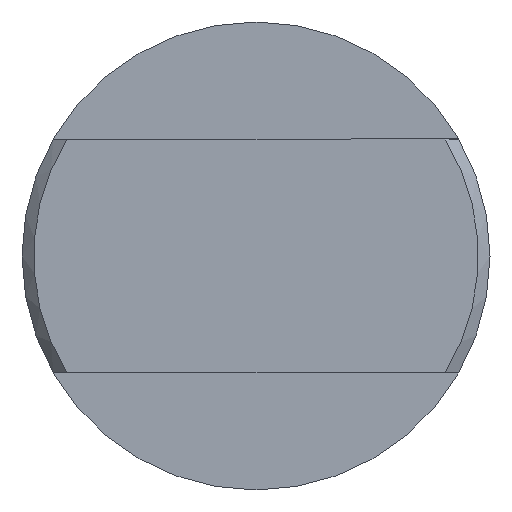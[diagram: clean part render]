
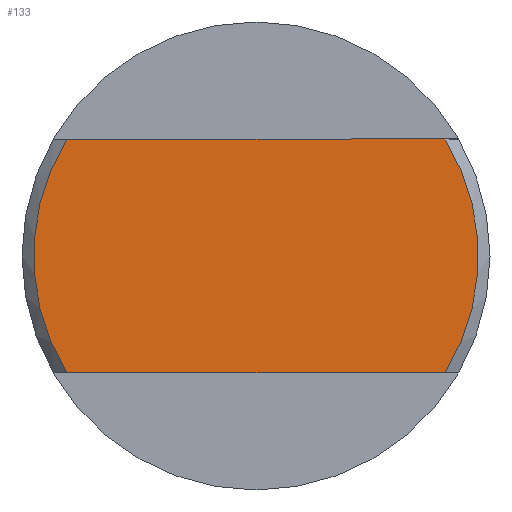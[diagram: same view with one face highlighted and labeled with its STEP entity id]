
A CAD part, left-side view. The second image highlights one B-rep face of the part: STEP entity #133.
In plain terms, the highlighted planar face has unit normal (-1, 0, 0).
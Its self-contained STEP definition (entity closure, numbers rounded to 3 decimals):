
#4 = VERTEX_POINT ( 'NONE', #962 ) ;
#5 = CARTESIAN_POINT ( 'NONE',  ( -13.75, 0., 0. ) ) ;
#124 = AXIS2_PLACEMENT_3D ( 'NONE', #835, #342, #996 ) ;
#125 = CARTESIAN_POINT ( 'NONE',  ( -13.75, -1.616, -1. ) ) ;
#133 = ADVANCED_FACE ( 'NONE', ( #499 ), #255, .F. ) ;
#207 = ORIENTED_EDGE ( 'NONE', *, *, #591, .T. ) ;
#235 = VECTOR ( 'NONE', #934, 1000. ) ;
#255 = PLANE ( 'NONE',  #897 ) ;
#307 = EDGE_CURVE ( 'NONE', #4, #454, #773, .T. ) ;
#342 = DIRECTION ( 'NONE',  ( -1., 0., 0. ) ) ;
#381 = VERTEX_POINT ( 'NONE', #459 ) ;
#416 = DIRECTION ( 'NONE',  ( 0., 0., -1. ) ) ;
#428 = VERTEX_POINT ( 'NONE', #125 ) ;
#441 = DIRECTION ( 'NONE',  ( 1., 0., 0. ) ) ;
#444 = VECTOR ( 'NONE', #956, 1000. ) ;
#448 = EDGE_CURVE ( 'NONE', #428, #381, #468, .T. ) ;
#454 = VERTEX_POINT ( 'NONE', #475 ) ;
#459 = CARTESIAN_POINT ( 'NONE',  ( -13.75, 1.616, -1. ) ) ;
#468 = LINE ( 'NONE', #965, #444 ) ;
#475 = CARTESIAN_POINT ( 'NONE',  ( -13.75, -1.616, 1. ) ) ;
#476 = CIRCLE ( 'NONE', #124, 1.9 ) ;
#499 = FACE_OUTER_BOUND ( 'NONE', #865, .T. ) ;
#570 = ORIENTED_EDGE ( 'NONE', *, *, #307, .F. ) ;
#581 = CARTESIAN_POINT ( 'NONE',  ( -13.75, 0., 0. ) ) ;
#591 = EDGE_CURVE ( 'NONE', #4, #381, #476, .T. ) ;
#633 = EDGE_CURVE ( 'NONE', #428, #454, #763, .T. ) ;
#656 = DIRECTION ( 'NONE',  ( -1., 0., 0. ) ) ;
#664 = AXIS2_PLACEMENT_3D ( 'NONE', #5, #656, #416 ) ;
#674 = DIRECTION ( 'NONE',  ( 0., 0., -1. ) ) ;
#692 = ORIENTED_EDGE ( 'NONE', *, *, #633, .T. ) ;
#717 = ORIENTED_EDGE ( 'NONE', *, *, #448, .F. ) ;
#763 = CIRCLE ( 'NONE', #664, 1.9 ) ;
#768 = CARTESIAN_POINT ( 'NONE',  ( -13.75, 0., 1. ) ) ;
#773 = LINE ( 'NONE', #768, #235 ) ;
#835 = CARTESIAN_POINT ( 'NONE',  ( -13.75, 0., 0. ) ) ;
#865 = EDGE_LOOP ( 'NONE', ( #717, #692, #570, #207 ) ) ;
#897 = AXIS2_PLACEMENT_3D ( 'NONE', #581, #441, #674 ) ;
#934 = DIRECTION ( 'NONE',  ( 0., -1., 0. ) ) ;
#956 = DIRECTION ( 'NONE',  ( 0., 1., 0. ) ) ;
#962 = CARTESIAN_POINT ( 'NONE',  ( -13.75, 1.616, 1. ) ) ;
#965 = CARTESIAN_POINT ( 'NONE',  ( -13.75, 0., -1. ) ) ;
#996 = DIRECTION ( 'NONE',  ( 0., 0., -1. ) ) ;
